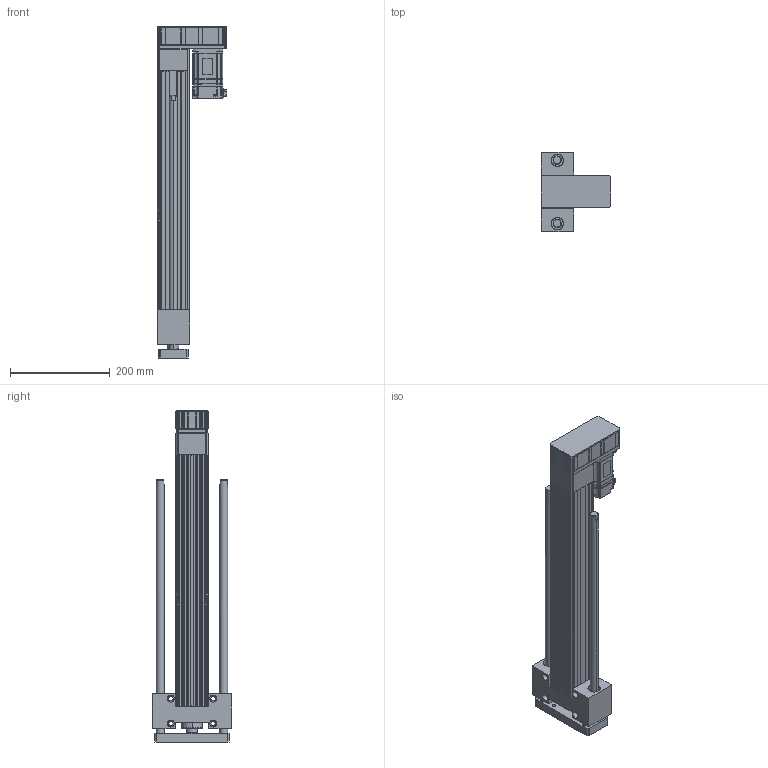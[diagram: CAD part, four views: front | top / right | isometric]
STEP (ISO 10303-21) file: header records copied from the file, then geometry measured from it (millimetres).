
FILE_DESCRIPTION (( 'STEP AP203' ), '1' );
FILE_NAME ('ANS065R-HP400-05(10)(20)-W40.STEP', '2019-03-01T09:48:03', ( 'user' ), ( '' ), 'SwSTEP 2.0', 'SolidWorks 2013', '' );
FILE_SCHEMA (( 'CONFIG_CONTROL_DESIGN' ));
Length unit declared in the file: millimetre
Products named in the file (4): ANS065R HP400 VER2; ANS065 ROD ST400 H; sgmjv_04a_a21; ANS065R-HP400-05(10)(20)-W40
Assembly tree (3 placements, depth 2):
  ANS065R-HP400-05(10)(20)-W40
    ANS065R HP400 VER2
    ANS065 ROD ST400 H
    sgmjv_04a_a21
Bounding box: 140.3 x 160 x 666 mm (x, y, z)
Volume: 2600806.5 mm3; surface area: 618333.8 mm2
Topology: 3 solids, 7 shells, 1457 faces, 3867 edges, 2498 vertices
Faces by surface type: plane 895, cylinder 452, cone 110
Entity records: 45317 total; most frequent: CARTESIAN_POINT 8114, ORIENTED_EDGE 7694, DIRECTION 7647, EDGE_CURVE 3847, VECTOR 2785, LINE 2785, VERTEX_POINT 2498, AXIS2_PLACEMENT_3D 2431
